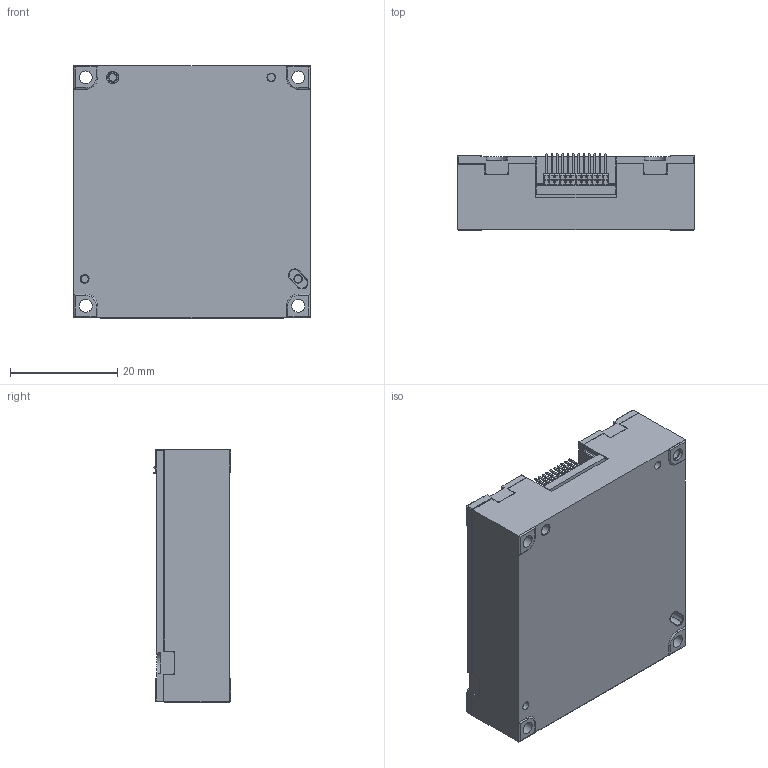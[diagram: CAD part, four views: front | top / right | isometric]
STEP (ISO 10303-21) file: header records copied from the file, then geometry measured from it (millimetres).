
FILE_DESCRIPTION(/* description */ ('Alibre Inc.'),/* implementation_level */ '2;1');
FILE_NAME(/* name */ 'export0',/* time_stamp */ '2018-03-16T11:56:51-04:00',/* author */ (''),/* organization */ (''),/* preprocessor_version */ 'ST-DEVELOPER v14',/* originating_system */ 'Alibre',/* authorisation */ '');
FILE_SCHEMA (('CONFIG_CONTROL_DESIGN'));
Length unit declared in the file: millimetre
Products named in the file (10): ID_1; 92010A784; ID_2; ID_3; ID_4
Bounding box: 44 x 14.41 x 47.13 mm (x, y, z)
Volume: 12038.6 mm3; surface area: 18593.6 mm2
Topology: 66 solids, 66 shells, 2490 faces, 6138 edges, 3752 vertices
Faces by surface type: plane 1791, cylinder 350, bspline 237, cone 66, torus 31, sphere 13, revolution 2
Full cylindrical faces by diameter (mm): 1.6 x4, 2.04 x1, 2.2 x4, 2.4 x9, 3.5 x2
Entity records: 47295 total; most frequent: CARTESIAN_POINT 11069, ORIENTED_EDGE 7720, DIRECTION 5533, EDGE_CURVE 3860, VECTOR 2863, LINE 2863, VERTEX_POINT 2443, AXIS2_PLACEMENT_3D 1836
